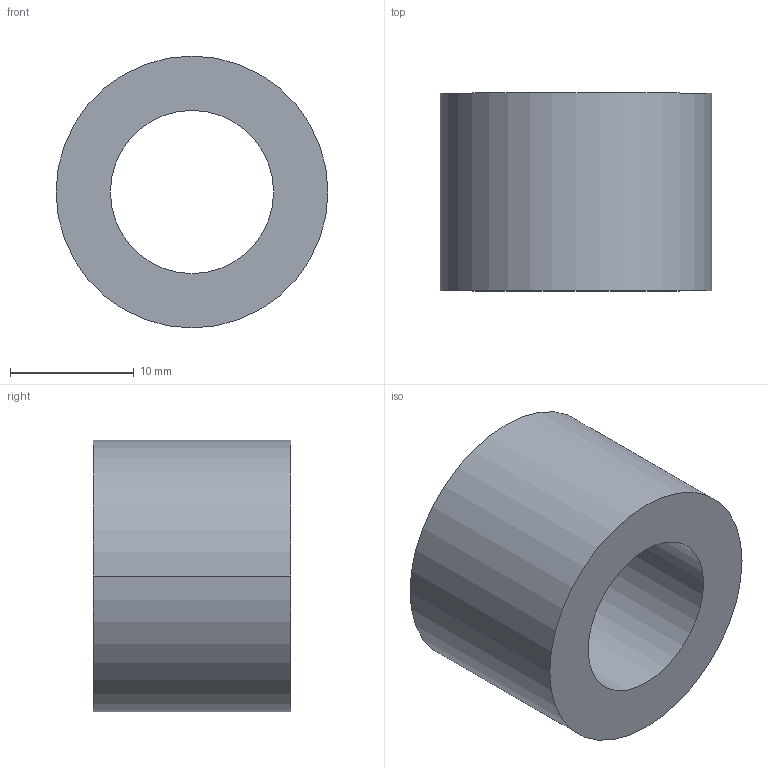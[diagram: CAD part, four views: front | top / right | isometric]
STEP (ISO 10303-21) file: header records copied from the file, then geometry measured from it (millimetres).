
FILE_DESCRIPTION (( 'STEP AP203' ), '1' );
FILE_NAME ('30800.WPP22F13.2.step', '2019-01-23T22:41:02', ( '' ), ( '' ), 'SwSTEP 2.0', 'SolidWorks 2017', '' );
FILE_SCHEMA (( 'CONFIG_CONTROL_DESIGN' ));
Length unit declared in the file: millimetre
Products named in the file (1): 30800.WPP22F13.2
Bounding box: 22 x 16 x 22 mm (x, y, z)
Volume: 3854.6 mm3; surface area: 2222.1 mm2
Topology: 1 solids, 1 shells, 8 faces, 16 edges, 10 vertices
Faces by surface type: cylinder 4, torus 2, plane 2
Entity records: 297 total; most frequent: DIRECTION 46, CARTESIAN_POINT 35, ORIENTED_EDGE 32, AXIS2_PLACEMENT_3D 21, EDGE_CURVE 16, CIRCLE 12, EDGE_LOOP 10, VERTEX_POINT 10
